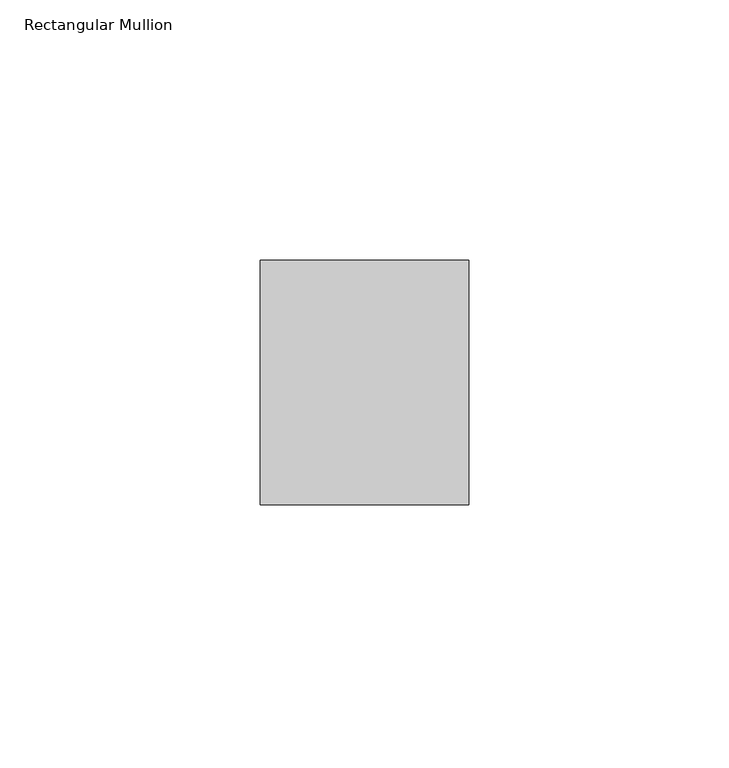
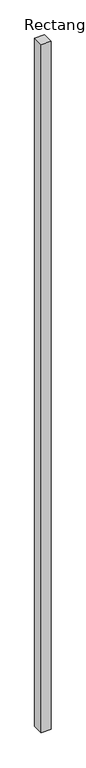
"""IFC4 building model written with IfcOpenShell, lengths in millimetres: member geometry, Rectangular Mullion : RSen_21_CWM_support profile - 40x47_gen_duco projects."""

from ifc_helpers import new_model, si_unit, frame, origin, place, context, project, spatial, polyline, outline, extrude, source, transform, mapped, element, save


def rectangular_mullion_f8ddd055(model_context):
    return source(origin(), model_context, "Body", "SweptSolid", [
        extrude(outline(polyline([(20.0, 1.0), (20.0, -46.0), (-20.0, -46.0), (-20.0, 1.0), (20.0, 1.0)])), frame((0.0, 0.0, -3000.0), z_axis=(0.0, 0.0, 1.0), x_axis=(1.0, 0.0, 0.0)), (0.0, 0.0, 1.0), 3000.0),
    ])


if __name__ == "__main__":
    model = new_model("IFC4")
    model_context = context("Model", 3, world=origin())
    ifc_project = project(units=[si_unit("LENGTHUNIT", "METRE", prefix="MILLI")], contexts=[model_context])
    site = spatial("IfcSite", under=ifc_project)
    building = spatial("IfcBuilding", under=site)
    placement = place(None, origin())
    rectangular_mullion_shape = rectangular_mullion_f8ddd055(model_context)
    element("IfcMember", 1, ObjectType="Rectangular Mullion : RSen_21_CWM_support profile - 40x47_gen_duco projects", at=placement, inside=building, context=model_context, shape_type="MappedRepresentation", body=[
        mapped(rectangular_mullion_shape, transform((0.0, 0.0, 0.0), x_axis=(1.0, 0.0, 0.0), y_axis=(0.0, 1.0, 0.0), z_axis=(0.0, 0.0, 1.0))),
    ])
    save(model, "model.ifc")
